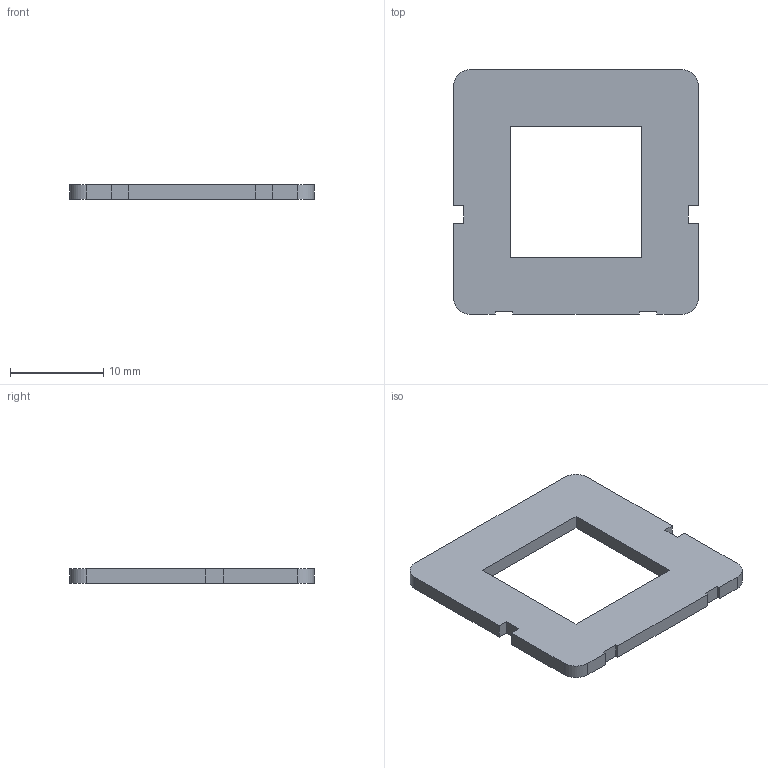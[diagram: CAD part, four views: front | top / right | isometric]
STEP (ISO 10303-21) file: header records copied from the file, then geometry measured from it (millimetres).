
FILE_DESCRIPTION(('Open CASCADE Model'),'2;1');
FILE_NAME('Open CASCADE Shape Model','2026-10-07T16:08:45',('Author'),( 'Open CASCADE'),'Open CASCADE STEP processor 7.9','Open CASCADE 7.9' ,'Unknown');
FILE_SCHEMA(('AUTOMOTIVE_DESIGN { 1 0 10303 214 1 1 1 1 }'));
Length unit declared in the file: millimetre
Products named in the file (1): Open CASCADE STEP translator 7.9 6
Bounding box: 26.2 x 26.2 x 1.5 mm (x, y, z)
Volume: 719.3 mm3; surface area: 1204.6 mm2
Topology: 1 solids, 1 shells, 30 faces, 84 edges, 56 vertices
Faces by surface type: plane 26, cylinder 4
Entity records: 1994 total; most frequent: CARTESIAN_POINT 443, DIRECTION 238, ORIENTED_EDGE 168, PCURVE 168, DEFINITIONAL_REPRESENTATION 168, LINE 156, VECTOR 156, EDGE_CURVE 84
